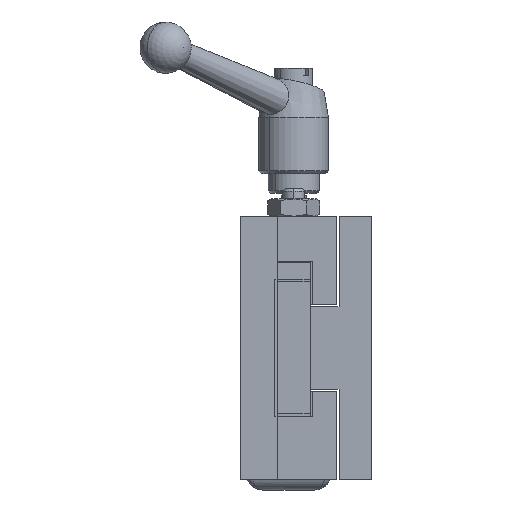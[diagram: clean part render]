
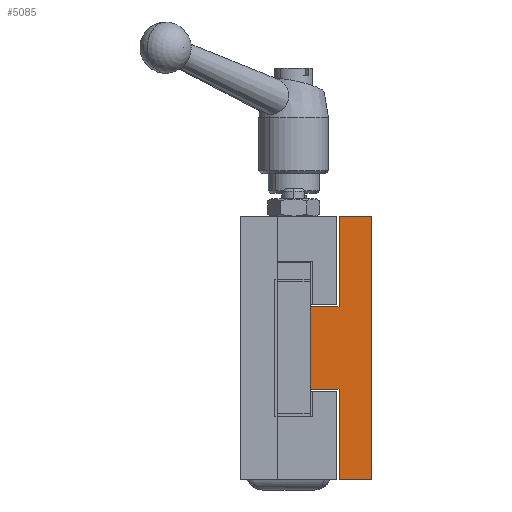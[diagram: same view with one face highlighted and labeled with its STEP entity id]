
A CAD part, left-side view. The second image highlights one B-rep face of the part: STEP entity #5085.
In plain terms, the highlighted planar face has unit normal (-1, 0, 0).
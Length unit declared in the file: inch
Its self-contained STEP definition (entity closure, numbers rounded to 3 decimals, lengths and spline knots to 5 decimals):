
#421 = CARTESIAN_POINT ( 'NONE',  ( 0., 0., -1. ) ) ;
#682 = VERTEX_POINT ( 'NONE', #6308 ) ;
#837 = VERTEX_POINT ( 'NONE', #7785 ) ;
#940 = VERTEX_POINT ( 'NONE', #7123 ) ;
#1469 = CARTESIAN_POINT ( 'NONE',  ( 0., 0.46875, 0.3125 ) ) ;
#1752 = VERTEX_POINT ( 'NONE', #7237 ) ;
#1754 = VERTEX_POINT ( 'NONE', #7239 ) ;
#1756 = VERTEX_POINT ( 'NONE', #7241 ) ;
#1901 = VECTOR ( 'NONE', #6960, 39.37008 ) ;
#1905 = VECTOR ( 'NONE', #6998, 39.37008 ) ;
#1937 = VECTOR ( 'NONE', #7007, 39.37008 ) ;
#2156 = VECTOR ( 'NONE', #7010, 39.37008 ) ;
#2188 = VECTOR ( 'NONE', #6992, 39.37008 ) ;
#2192 = VECTOR ( 'NONE', #6990, 39.37008 ) ;
#2265 = VECTOR ( 'NONE', #7005, 39.37008 ) ;
#2267 = VECTOR ( 'NONE', #6995, 39.37008 ) ;
#2274 = EDGE_CURVE ( 'NONE', #682, #7408, #7250, .T. ) ;
#2284 = EDGE_CURVE ( 'NONE', #682, #1754, #6988, .T. ) ;
#2285 = EDGE_CURVE ( 'NONE', #1754, #1752, #6972, .T. ) ;
#2286 = EDGE_CURVE ( 'NONE', #6368, #1752, #6993, .T. ) ;
#2287 = EDGE_CURVE ( 'NONE', #837, #6368, #6977, .T. ) ;
#2289 = EDGE_CURVE ( 'NONE', #1756, #837, #7000, .T. ) ;
#2290 = EDGE_CURVE ( 'NONE', #1756, #940, #6999, .T. ) ;
#2291 = EDGE_CURVE ( 'NONE', #940, #7408, #7008, .T. ) ;
#3157 = AXIS2_PLACEMENT_3D ( 'NONE', #6663, #6669, #6670 ) ;
#3703 = EDGE_LOOP ( 'NONE', ( #4332, #4333, #4334, #4335, #4336, #4337, #4338, #4339 ) ) ;
#4332 = ORIENTED_EDGE ( 'NONE', *, *, #2284, .T. ) ;
#4333 = ORIENTED_EDGE ( 'NONE', *, *, #2285, .T. ) ;
#4334 = ORIENTED_EDGE ( 'NONE', *, *, #2286, .F. ) ;
#4335 = ORIENTED_EDGE ( 'NONE', *, *, #2287, .F. ) ;
#4336 = ORIENTED_EDGE ( 'NONE', *, *, #2289, .F. ) ;
#4337 = ORIENTED_EDGE ( 'NONE', *, *, #2290, .T. ) ;
#4338 = ORIENTED_EDGE ( 'NONE', *, *, #2291, .T. ) ;
#4339 = ORIENTED_EDGE ( 'NONE', *, *, #2274, .F. ) ;
#5085 = ADVANCED_FACE ( 'NONE', ( #6667 ), #6661, .F. ) ;
#6308 = CARTESIAN_POINT ( 'NONE',  ( 0., 0.46875, -0.3125 ) ) ;
#6368 = VERTEX_POINT ( 'NONE', #421 ) ;
#6661 = PLANE ( 'NONE',  #3157 ) ;
#6663 = CARTESIAN_POINT ( 'NONE',  ( 0., 0., 1. ) ) ;
#6667 = FACE_OUTER_BOUND ( 'NONE', #3703, .T. ) ;
#6669 = DIRECTION ( 'NONE',  ( 1., 0., 0. ) ) ;
#6670 = DIRECTION ( 'NONE',  ( 0., 0., -1. ) ) ;
#6959 = CARTESIAN_POINT ( 'NONE',  ( 0., 0.46875, 1. ) ) ;
#6960 = DIRECTION ( 'NONE',  ( 0., 0., 1. ) ) ;
#6972 = LINE ( 'NONE', #6991, #2188 ) ;
#6977 = LINE ( 'NONE', #6996, #1905 ) ;
#6988 = LINE ( 'NONE', #6989, #2192 ) ;
#6989 = CARTESIAN_POINT ( 'NONE',  ( 0., 0.46875, -0.3125 ) ) ;
#6990 = DIRECTION ( 'NONE',  ( 0., -1., 0. ) ) ;
#6991 = CARTESIAN_POINT ( 'NONE',  ( 0., 0.25, -1. ) ) ;
#6992 = DIRECTION ( 'NONE',  ( 0., 0., -1. ) ) ;
#6993 = LINE ( 'NONE', #6994, #2267 ) ;
#6994 = CARTESIAN_POINT ( 'NONE',  ( 0., 0.46875, -1. ) ) ;
#6995 = DIRECTION ( 'NONE',  ( 0., 1., 0. ) ) ;
#6996 = CARTESIAN_POINT ( 'NONE',  ( 0., 0., 1. ) ) ;
#6997 = CARTESIAN_POINT ( 'NONE',  ( 0., 0.46875, 1. ) ) ;
#6998 = DIRECTION ( 'NONE',  ( 0., 0., -1. ) ) ;
#6999 = LINE ( 'NONE', #7006, #1937 ) ;
#7000 = LINE ( 'NONE', #6997, #2265 ) ;
#7005 = DIRECTION ( 'NONE',  ( 0., -1., 0. ) ) ;
#7006 = CARTESIAN_POINT ( 'NONE',  ( 0., 0.25, 1. ) ) ;
#7007 = DIRECTION ( 'NONE',  ( 0., 0., -1. ) ) ;
#7008 = LINE ( 'NONE', #7009, #2156 ) ;
#7009 = CARTESIAN_POINT ( 'NONE',  ( 0., 0.46875, 0.3125 ) ) ;
#7010 = DIRECTION ( 'NONE',  ( 0., 1., 0. ) ) ;
#7123 = CARTESIAN_POINT ( 'NONE',  ( 0., 0.25, 0.3125 ) ) ;
#7237 = CARTESIAN_POINT ( 'NONE',  ( 0., 0.25, -1. ) ) ;
#7239 = CARTESIAN_POINT ( 'NONE',  ( 0., 0.25, -0.3125 ) ) ;
#7241 = CARTESIAN_POINT ( 'NONE',  ( 0., 0.25, 1. ) ) ;
#7250 = LINE ( 'NONE', #6959, #1901 ) ;
#7408 = VERTEX_POINT ( 'NONE', #1469 ) ;
#7785 = CARTESIAN_POINT ( 'NONE',  ( 0., 0., 1. ) ) ;
